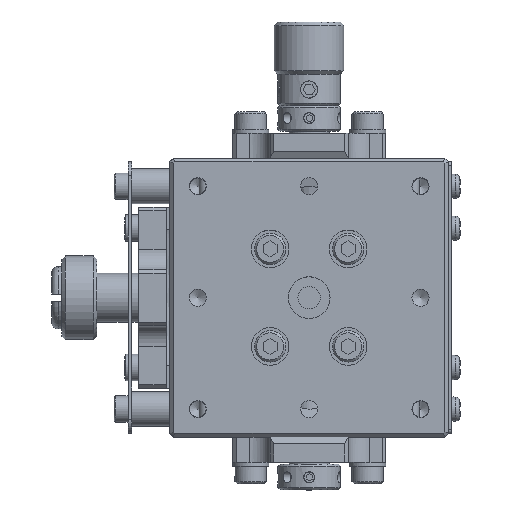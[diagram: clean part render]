
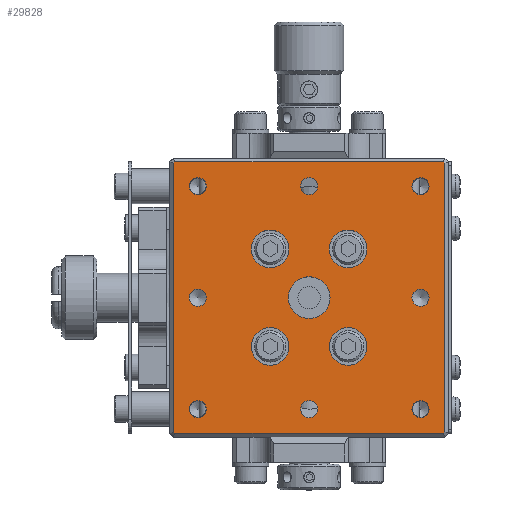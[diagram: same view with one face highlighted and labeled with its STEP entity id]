
A CAD part, top view. The second image highlights one B-rep face of the part: STEP entity #29828.
In plain terms, the highlighted planar face has unit normal (0, 0, 1).
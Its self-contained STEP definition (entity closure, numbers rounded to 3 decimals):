
#29337=CARTESIAN_POINT('',(19.293,19.5,-60.0));
#29338=VERTEX_POINT('',#29337);
#29339=CARTESIAN_POINT('',(19.5,19.293,-60.0));
#29340=VERTEX_POINT('',#29339);
#29341=CARTESIAN_POINT('',(19.293,19.5,-60.0));
#29342=DIRECTION('',(0.707,-0.707,0.0));
#29343=VECTOR('',#29342,0.293);
#29344=LINE('',#29341,#29343);
#29345=EDGE_CURVE('',#29338,#29340,#29344,.T.);
#29386=CARTESIAN_POINT('',(19.5,-19.293,-60.0));
#29387=VERTEX_POINT('',#29386);
#29388=CARTESIAN_POINT('',(19.5,19.293,-60.0));
#29389=DIRECTION('',(0.0,-1.0,0.0));
#29390=VECTOR('',#29389,38.586);
#29391=LINE('',#29388,#29390);
#29392=EDGE_CURVE('',#29340,#29387,#29391,.T.);
#29408=CARTESIAN_POINT('',(19.293,-19.5,-60.0));
#29409=VERTEX_POINT('',#29408);
#29410=CARTESIAN_POINT('',(19.5,-19.293,-60.0));
#29411=DIRECTION('',(-0.707,-0.707,0.0));
#29412=VECTOR('',#29411,0.293);
#29413=LINE('',#29410,#29412);
#29414=EDGE_CURVE('',#29387,#29409,#29413,.T.);
#29441=CARTESIAN_POINT('',(-19.293,-19.5,-60.0));
#29442=VERTEX_POINT('',#29441);
#29443=CARTESIAN_POINT('',(19.293,-19.5,-60.0));
#29444=DIRECTION('',(-1.0,0.0,0.0));
#29445=VECTOR('',#29444,38.586);
#29446=LINE('',#29443,#29445);
#29447=EDGE_CURVE('',#29409,#29442,#29446,.T.);
#29463=CARTESIAN_POINT('',(-19.5,-19.293,-60.0));
#29464=VERTEX_POINT('',#29463);
#29465=CARTESIAN_POINT('',(-19.293,-19.5,-60.0));
#29466=DIRECTION('',(-0.707,0.707,0.0));
#29467=VECTOR('',#29466,0.293);
#29468=LINE('',#29465,#29467);
#29469=EDGE_CURVE('',#29442,#29464,#29468,.T.);
#29492=CARTESIAN_POINT('',(-19.293,19.5,-60.0));
#29493=VERTEX_POINT('',#29492);
#29494=CARTESIAN_POINT('',(-19.293,19.5,-60.0));
#29495=DIRECTION('',(1.0,0.0,0.0));
#29496=VECTOR('',#29495,38.586);
#29497=LINE('',#29494,#29496);
#29498=EDGE_CURVE('',#29493,#29338,#29497,.T.);
#29525=CARTESIAN_POINT('',(-19.5,19.293,-60.0));
#29526=VERTEX_POINT('',#29525);
#29527=CARTESIAN_POINT('',(-19.5,-19.293,-60.0));
#29528=DIRECTION('',(0.0,1.0,0.0));
#29529=VECTOR('',#29528,38.586);
#29530=LINE('',#29527,#29529);
#29531=EDGE_CURVE('',#29464,#29526,#29530,.T.);
#29547=CARTESIAN_POINT('',(-19.5,19.293,-60.0));
#29548=DIRECTION('',(0.707,0.707,0.0));
#29549=VECTOR('',#29548,0.293);
#29550=LINE('',#29547,#29549);
#29551=EDGE_CURVE('',#29526,#29493,#29550,.T.);
#29670=CARTESIAN_POINT('',(0.0,20.0,-60.0));
#29671=DIRECTION('',(0.0,0.0,1.0));
#29672=DIRECTION('',(1.0,0.0,0.0));
#29673=AXIS2_PLACEMENT_3D('',#29670,#29671,#29672);
#29674=PLANE('',#29673);
#29675=ORIENTED_EDGE('',*,*,#29345,.F.);
#29676=ORIENTED_EDGE('',*,*,#29498,.F.);
#29677=ORIENTED_EDGE('',*,*,#29551,.F.);
#29678=ORIENTED_EDGE('',*,*,#29531,.F.);
#29679=ORIENTED_EDGE('',*,*,#29469,.F.);
#29680=ORIENTED_EDGE('',*,*,#29447,.F.);
#29681=ORIENTED_EDGE('',*,*,#29414,.F.);
#29682=ORIENTED_EDGE('',*,*,#29392,.F.);
#29683=EDGE_LOOP('',(#29675,#29676,#29677,#29678,#29679,#29680,#29681,#29682));
#29684=FACE_OUTER_BOUND('',#29683,.T.);
#29685=CARTESIAN_POINT('',(-17.23,0.,-60.0));
#29686=VERTEX_POINT('',#29685);
#29687=CARTESIAN_POINT('',(-16.0,0.,-60.0));
#29688=DIRECTION('',(0.0,0.0,-1.0));
#29689=DIRECTION('',(-1.0,0.0,0.0));
#29690=AXIS2_PLACEMENT_3D('',#29687,#29688,#29689);
#29691=CIRCLE('',#29690,1.23);
#29692=EDGE_CURVE('',#29686,#29686,#29691,.T.);
#29693=ORIENTED_EDGE('',*,*,#29692,.T.);
#29694=EDGE_LOOP('',(#29693));
#29695=FACE_BOUND('',#29694,.T.);
#29696=CARTESIAN_POINT('',(17.23,0.0,-60.0));
#29697=VERTEX_POINT('',#29696);
#29698=CARTESIAN_POINT('',(16.0,0.0,-60.0));
#29699=DIRECTION('',(0.0,0.0,-1.0));
#29700=DIRECTION('',(1.0,0.0,0.0));
#29701=AXIS2_PLACEMENT_3D('',#29698,#29699,#29700);
#29702=CIRCLE('',#29701,1.23);
#29703=EDGE_CURVE('',#29697,#29697,#29702,.T.);
#29704=ORIENTED_EDGE('',*,*,#29703,.T.);
#29705=EDGE_LOOP('',(#29704));
#29706=FACE_BOUND('',#29705,.T.);
#29707=CARTESIAN_POINT('',(-1.229,16.0,-60.0));
#29708=VERTEX_POINT('',#29707);
#29709=CARTESIAN_POINT('',(0.,16.0,-60.0));
#29710=DIRECTION('',(0.0,0.0,-1.0));
#29711=DIRECTION('',(-1.0,0.0,0.0));
#29712=AXIS2_PLACEMENT_3D('',#29709,#29710,#29711);
#29713=CIRCLE('',#29712,1.23);
#29714=EDGE_CURVE('',#29708,#29708,#29713,.T.);
#29715=ORIENTED_EDGE('',*,*,#29714,.T.);
#29716=EDGE_LOOP('',(#29715));
#29717=FACE_BOUND('',#29716,.T.);
#29718=CARTESIAN_POINT('',(1.23,-16.0,-60.0));
#29719=VERTEX_POINT('',#29718);
#29720=CARTESIAN_POINT('',(0.0,-16.0,-60.0));
#29721=DIRECTION('',(0.0,0.0,-1.0));
#29722=DIRECTION('',(1.0,0.0,0.0));
#29723=AXIS2_PLACEMENT_3D('',#29720,#29721,#29722);
#29724=CIRCLE('',#29723,1.23);
#29725=EDGE_CURVE('',#29719,#29719,#29724,.T.);
#29726=ORIENTED_EDGE('',*,*,#29725,.T.);
#29727=EDGE_LOOP('',(#29726));
#29728=FACE_BOUND('',#29727,.T.);
#29729=CARTESIAN_POINT('',(-16.,14.771,-60.0));
#29730=VERTEX_POINT('',#29729);
#29731=CARTESIAN_POINT('',(-16.,16.,-60.0));
#29732=DIRECTION('',(0.0,0.0,-1.0));
#29733=DIRECTION('',(0.0,-1.0,0.0));
#29734=AXIS2_PLACEMENT_3D('',#29731,#29732,#29733);
#29735=CIRCLE('',#29734,1.23);
#29736=EDGE_CURVE('',#29730,#29730,#29735,.T.);
#29737=ORIENTED_EDGE('',*,*,#29736,.T.);
#29738=EDGE_LOOP('',(#29737));
#29739=FACE_BOUND('',#29738,.T.);
#29740=CARTESIAN_POINT('',(14.771,16.0,-60.0));
#29741=VERTEX_POINT('',#29740);
#29742=CARTESIAN_POINT('',(16.0,16.0,-60.0));
#29743=DIRECTION('',(0.0,0.0,-1.0));
#29744=DIRECTION('',(-1.0,0.0,0.0));
#29745=AXIS2_PLACEMENT_3D('',#29742,#29743,#29744);
#29746=CIRCLE('',#29745,1.23);
#29747=EDGE_CURVE('',#29741,#29741,#29746,.T.);
#29748=ORIENTED_EDGE('',*,*,#29747,.T.);
#29749=EDGE_LOOP('',(#29748));
#29750=FACE_BOUND('',#29749,.T.);
#29751=CARTESIAN_POINT('',(16.0,-14.771,-60.0));
#29752=VERTEX_POINT('',#29751);
#29753=CARTESIAN_POINT('',(16.0,-16.0,-60.0));
#29754=DIRECTION('',(0.0,0.0,-1.0));
#29755=DIRECTION('',(0.0,1.0,0.0));
#29756=AXIS2_PLACEMENT_3D('',#29753,#29754,#29755);
#29757=CIRCLE('',#29756,1.23);
#29758=EDGE_CURVE('',#29752,#29752,#29757,.T.);
#29759=ORIENTED_EDGE('',*,*,#29758,.T.);
#29760=EDGE_LOOP('',(#29759));
#29761=FACE_BOUND('',#29760,.T.);
#29762=CARTESIAN_POINT('',(-14.771,-16.0,-60.0));
#29763=VERTEX_POINT('',#29762);
#29764=CARTESIAN_POINT('',(-16.0,-16.0,-60.0));
#29765=DIRECTION('',(0.0,0.0,-1.0));
#29766=DIRECTION('',(1.0,0.0,0.0));
#29767=AXIS2_PLACEMENT_3D('',#29764,#29765,#29766);
#29768=CIRCLE('',#29767,1.23);
#29769=EDGE_CURVE('',#29763,#29763,#29768,.T.);
#29770=ORIENTED_EDGE('',*,*,#29769,.T.);
#29771=EDGE_LOOP('',(#29770));
#29772=FACE_BOUND('',#29771,.T.);
#29773=CARTESIAN_POINT('',(2.9,-7.,-60.0));
#29774=VERTEX_POINT('',#29773);
#29775=CARTESIAN_POINT('',(5.6,-7.,-60.0));
#29776=DIRECTION('',(0.0,0.0,-1.0));
#29777=DIRECTION('',(-1.0,0.0,0.0));
#29778=AXIS2_PLACEMENT_3D('',#29775,#29776,#29777);
#29779=CIRCLE('',#29778,2.7);
#29780=EDGE_CURVE('',#29774,#29774,#29779,.T.);
#29781=ORIENTED_EDGE('',*,*,#29780,.T.);
#29782=EDGE_LOOP('',(#29781));
#29783=FACE_BOUND('',#29782,.T.);
#29784=CARTESIAN_POINT('',(-8.3,-7.,-60.0));
#29785=VERTEX_POINT('',#29784);
#29786=CARTESIAN_POINT('',(-5.6,-7.,-60.0));
#29787=DIRECTION('',(0.0,0.0,-1.0));
#29788=DIRECTION('',(-1.0,0.0,0.0));
#29789=AXIS2_PLACEMENT_3D('',#29786,#29787,#29788);
#29790=CIRCLE('',#29789,2.7);
#29791=EDGE_CURVE('',#29785,#29785,#29790,.T.);
#29792=ORIENTED_EDGE('',*,*,#29791,.T.);
#29793=EDGE_LOOP('',(#29792));
#29794=FACE_BOUND('',#29793,.T.);
#29795=CARTESIAN_POINT('',(-2.9,7.,-60.0));
#29796=VERTEX_POINT('',#29795);
#29797=CARTESIAN_POINT('',(-5.6,7.,-60.0));
#29798=DIRECTION('',(0.0,0.0,-1.0));
#29799=DIRECTION('',(1.0,0.0,0.0));
#29800=AXIS2_PLACEMENT_3D('',#29797,#29798,#29799);
#29801=CIRCLE('',#29800,2.7);
#29802=EDGE_CURVE('',#29796,#29796,#29801,.T.);
#29803=ORIENTED_EDGE('',*,*,#29802,.T.);
#29804=EDGE_LOOP('',(#29803));
#29805=FACE_BOUND('',#29804,.T.);
#29806=CARTESIAN_POINT('',(8.3,7.,-60.0));
#29807=VERTEX_POINT('',#29806);
#29808=CARTESIAN_POINT('',(5.6,7.,-60.0));
#29809=DIRECTION('',(0.0,0.0,-1.0));
#29810=DIRECTION('',(1.0,0.0,0.0));
#29811=AXIS2_PLACEMENT_3D('',#29808,#29809,#29810);
#29812=CIRCLE('',#29811,2.7);
#29813=EDGE_CURVE('',#29807,#29807,#29812,.T.);
#29814=ORIENTED_EDGE('',*,*,#29813,.T.);
#29815=EDGE_LOOP('',(#29814));
#29816=FACE_BOUND('',#29815,.T.);
#29817=CARTESIAN_POINT('',(3.,0.0,-60.0));
#29818=VERTEX_POINT('',#29817);
#29819=CARTESIAN_POINT('',(0.0,0.0,-60.0));
#29820=DIRECTION('',(0.0,0.0,-1.0));
#29821=DIRECTION('',(1.0,0.0,0.0));
#29822=AXIS2_PLACEMENT_3D('',#29819,#29820,#29821);
#29823=CIRCLE('',#29822,3.);
#29824=EDGE_CURVE('',#29818,#29818,#29823,.T.);
#29825=ORIENTED_EDGE('',*,*,#29824,.T.);
#29826=EDGE_LOOP('',(#29825));
#29827=FACE_BOUND('',#29826,.T.);
#29828=ADVANCED_FACE('',(#29684,#29695,#29706,#29717,#29728,#29739,#29750,#29761,#29772,#29783,#29794,#29805,#29816,#29827),#29674,.T.);
